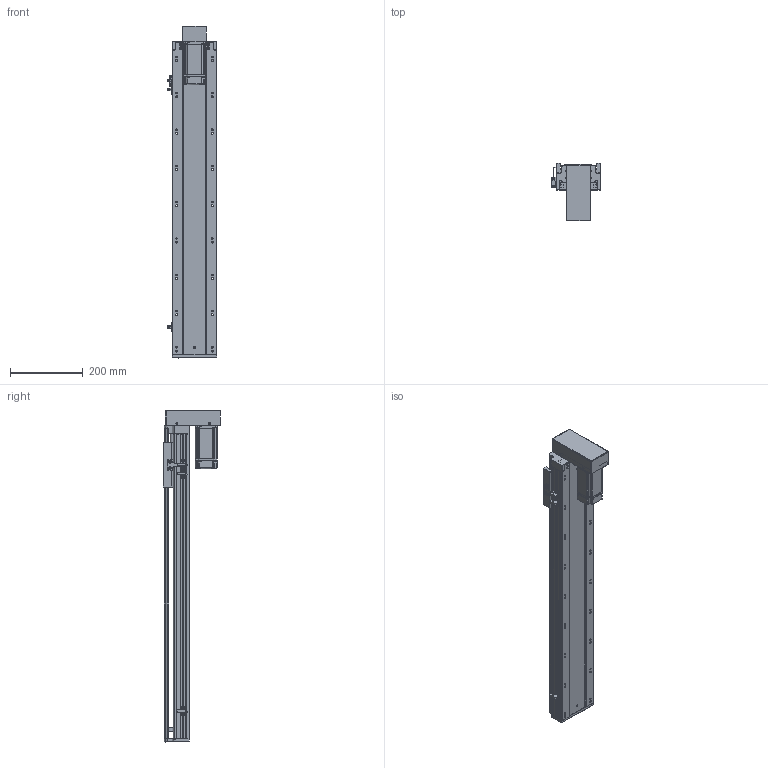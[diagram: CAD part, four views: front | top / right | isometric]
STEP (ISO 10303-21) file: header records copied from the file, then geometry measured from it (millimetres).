
FILE_DESCRIPTION (( 'STEP AP203' ), '1' );
FILE_NAME ('RY120-L2020-300-BK.SLDASM_650.step', '2021-03-12T06:57:50', ( '盈信电脑' ), ( '东莞市道滘镇水果街19号' ), 'SwSTEP 2.0', 'SolidWorks 2012', '' );
FILE_SCHEMA (( 'CONFIG_CONTROL_DESIGN' ));
Products named in the file (15): RY120-L2020-300-BK.SLDASM_650; RY120-400W萇儂傷-BK; RY120下折折电机安装板; RY120狟殏萇儂欶; 侂狟400W侜督萇儂; 15; RY120外置感应片(140共用）; 滅袉蝶18-10; RY120转拆电端丝杆支撑座(20丝杆，7002轴承); 滅袉蝶18-24; RY120綴裔啣; RY120臏賑輸(20蹟譫); RY120-300-BK蛌殏倰第奻裔啣_650; 覜茼ん672; RY120-300-BK蛌殏倰第菁釱_650
Assembly tree (17 placements, depth 4):
  RY120-L2020-300-BK.SLDASM_650
    RY120-300-BK蛌殏倰第菁釱_650
    RY120-300-BK蛌殏倰第奻裔啣_650
    RY120臏賑輸(20蹟譫)
    RY120綴裔啣
    覜茼ん672  x3
    滅袉蝶18-10
    滅袉蝶18-24  x2
    RY120外置感应片(140共用）
    RY120转拆电端丝杆支撑座(20丝杆，7002轴承)
    RY120-400W萇儂傷-BK
      侂狟400W侜督萇儂
        15
      RY120狟殏萇儂欶
      RY120下折折电机安装板
Bounding box: 135.7 x 159.5 x 914 mm (x, y, z)
Volume: 2736886.4 mm3; surface area: 994310.2 mm2
Topology: 16 solids, 16 shells, 2508 faces, 6919 edges, 4438 vertices
Faces by surface type: plane 1236, cylinder 952, cone 215, bspline 105
Entity records: 83939 total; most frequent: CARTESIAN_POINT 24033, ORIENTED_EDGE 12550, DIRECTION 11495, EDGE_CURVE 6275, VERTEX_POINT 4106, VECTOR 3837, LINE 3837, AXIS2_PLACEMENT_3D 3829
